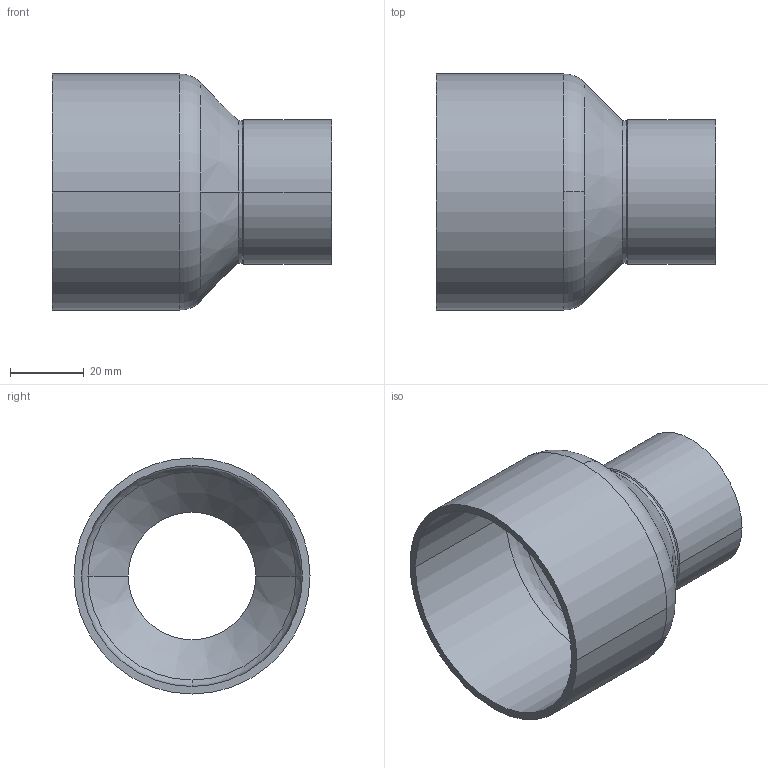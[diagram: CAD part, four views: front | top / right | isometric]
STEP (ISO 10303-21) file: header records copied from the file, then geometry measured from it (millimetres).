
FILE_DESCRIPTION((''),'2;1');
FILE_NAME('G:\Technics\CAD\Bauteile\Serie 15243\152436435.stp','2005-10-21T12:49:47',('boden'),(''),'Autodesk Inventor 8','Autodesk Inventor 8','');
FILE_SCHEMA(('AUTOMOTIVE_DESIGN { 1 0 10303 214 1 1 1 1 }'));
Length unit declared in the file: millimetre
Products named in the file (1): 152436435
Bounding box: 75.6 x 63.96 x 63.96 mm (x, y, z)
Volume: 26598.3 mm3; surface area: 26587.3 mm2
Topology: 1 solids, 1 shells, 26 faces, 60 edges, 36 vertices
Faces by surface type: cylinder 12, cone 8, bspline 2, torus 2, plane 2
Entity records: 855 total; most frequent: CARTESIAN_POINT 211, DIRECTION 150, ORIENTED_EDGE 120, AXIS2_PLACEMENT_3D 65, EDGE_CURVE 60, CIRCLE 40, VERTEX_POINT 36, EDGE_LOOP 28
